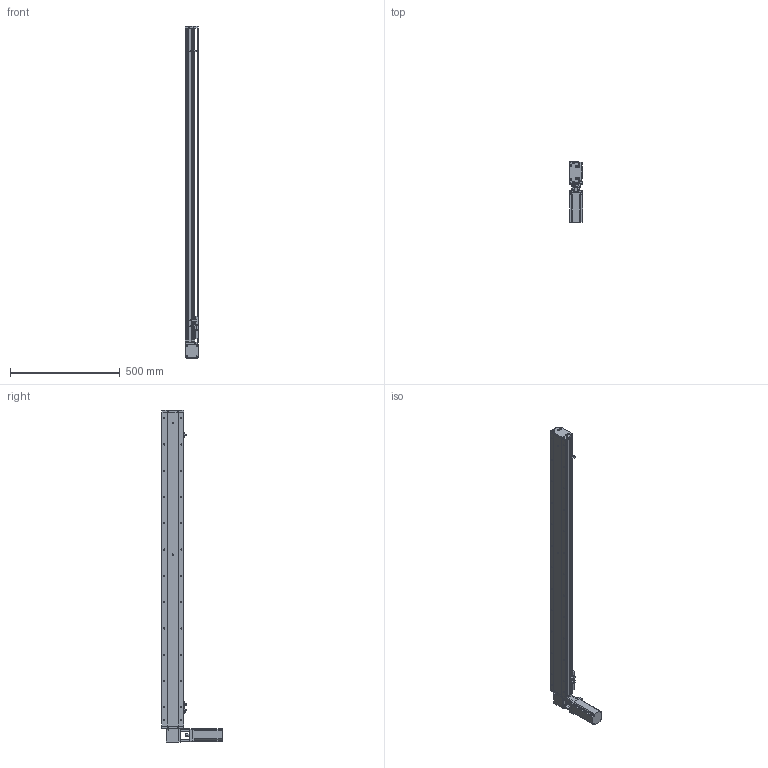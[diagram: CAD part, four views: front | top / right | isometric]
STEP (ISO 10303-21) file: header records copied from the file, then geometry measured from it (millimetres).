
FILE_DESCRIPTION (( 'STEP AP214' ), '1' );
FILE_NAME ('KSD100B-S1250-MLT-CM.STEP', '2019-11-11T05:23:30', ( '微软用户' ), ( '微软中国' ), 'SwSTEP 2.0', 'SolidWorks 2014', '' );
FILE_SCHEMA (( 'AUTOMOTIVE_DESIGN' ));
Length unit declared in the file: millimetre
Products named in the file (12): 100宽安装板同步带带电机座400W,86; 100遵鎮湛假蚾啣1 ; 100宽防尘板1250行程-同步带; U倰嫖萇EEㄜSX672; 覜茼え100遵圉猾敕; 台达ECMA－C20604AS伺服电机; 100宽马达安装板同步带右; 100宽同步带安装板半封闭; 100宽马达安装板同步带; 100遵傷啣肮祭湍; 100宽底板半封闭同步带1250行程; KSD100B-S1250-MLT-CM
Assembly tree (13 placements, depth 2):
  KSD100B-S1250-MLT-CM
    100宽底板半封闭同步带1250行程
    100遵傷啣肮祭湍
    100宽马达安装板同步带
    100宽同步带安装板半封闭
    100宽马达安装板同步带右
    台达ECMA－C20604AS伺服电机
    覜茼え100遵圉猾敕
    U倰嫖萇EEㄜSX672  x3
    100宽防尘板1250行程-同步带
    100遵鎮湛假蚾啣1 
    100宽安装板同步带带电机座400W,86
Bounding box: 61 x 275 x 1515 mm (x, y, z)
Volume: 3282380.8 mm3; surface area: 1086103.5 mm2
Topology: 14 solids, 14 shells, 1542 faces, 4355 edges, 2757 vertices
Faces by surface type: cylinder 800, plane 587, cone 155
Entity records: 55063 total; most frequent: CARTESIAN_POINT 11552, DIRECTION 7587, ORIENTED_EDGE 7306, EDGE_CURVE 3653, AXIS2_PLACEMENT_3D 2802, VERTEX_POINT 2381, LINE 1983, VECTOR 1983
